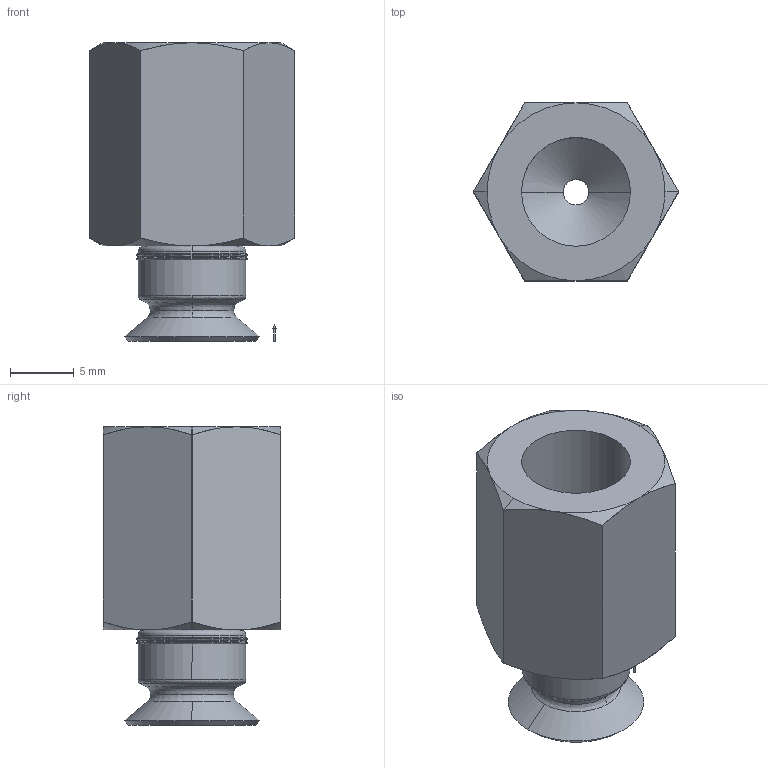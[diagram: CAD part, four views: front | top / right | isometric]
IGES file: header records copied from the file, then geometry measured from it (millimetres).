
Start section: 3D InterOp IGES (v. 2018 1.0.2), Spatial Corp. Copyright (c) 1999-2017.
Global section: file name: schmalz_10_01_01_00255_9w3y2inx88yiyfsbzpv0m2urp.igs; native system: Spatial Corp.; preprocessor: 3D InterOp ACIS/IGES; author: TraceParts; organization: TraceParts S.A.; date: 20181114.040137; units: millimetre
Bounding box: 16.17 x 14 x 23.5 mm (x, y, z)
Surface area: 1829.6 mm2 (no closed solid volume)
Topology: 0 solids, 0 shells, 81 faces, 380 edges, 378 vertices
Faces by surface type: revolution 68, extrusion 13
